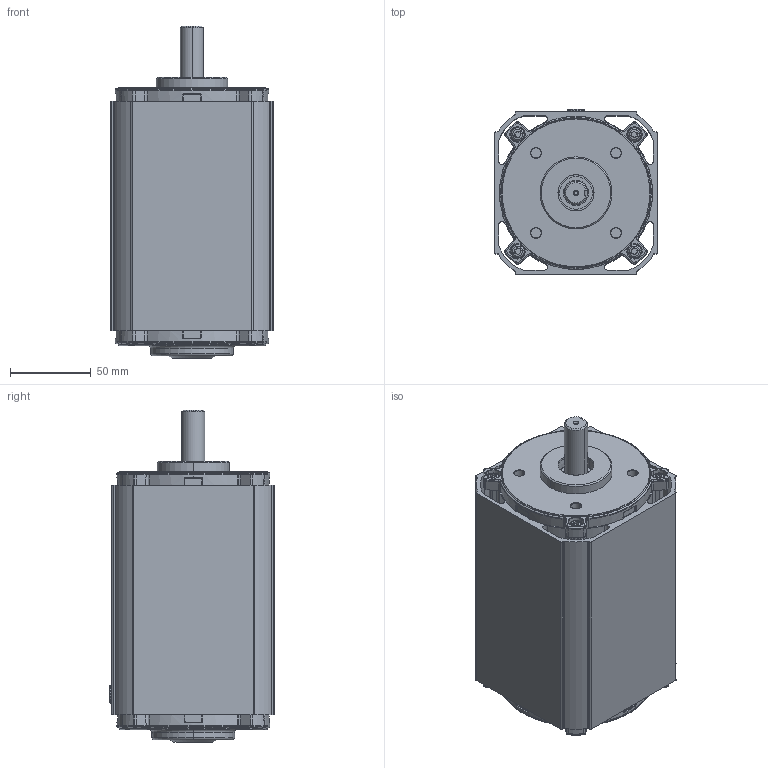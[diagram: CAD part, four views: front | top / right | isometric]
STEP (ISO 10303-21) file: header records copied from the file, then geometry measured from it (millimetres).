
FILE_DESCRIPTION (( 'STEP AP203' ), '1' );
FILE_NAME ('OUTLINE AC9060NV.STEP', '2007-10-30T17:48:47', ( 'eng-rjs2' ), ( 'groschopp' ), 'SwSTEP 2.0', 'SolidWorks 2008', '' );
FILE_SCHEMA (( 'CONFIG_CONTROL_DESIGN' ));
Length unit declared in the file: inch
Products named in the file (1): OUTLINE AC9060NV
Bounding box: 100.43 x 102.02 x 205.08 mm (x, y, z)
Surface area: 145394.8 mm2 (no closed solid volume)
Topology: 0 solids, 28 shells, 831 faces, 2383 edges, 1530 vertices
Faces by surface type: cylinder 278, plane 210, cone 161, torus 126, bspline 40, sphere 16
Entity records: 28380 total; most frequent: CARTESIAN_POINT 6641, DIRECTION 4888, ORIENTED_EDGE 4250, EDGE_CURVE 2383, AXIS2_PLACEMENT_3D 1995, VERTEX_POINT 1530, CIRCLE 1203, VECTOR 898
